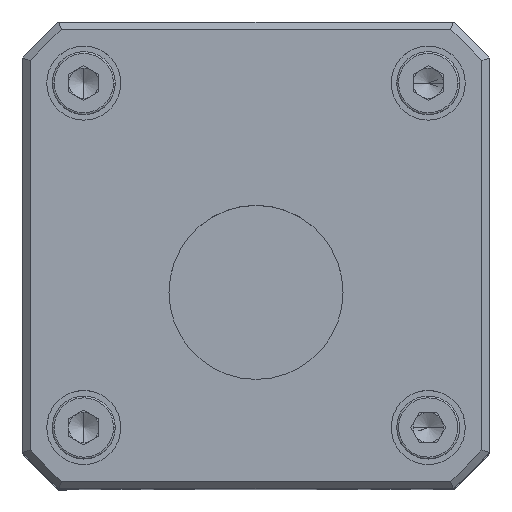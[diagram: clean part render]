
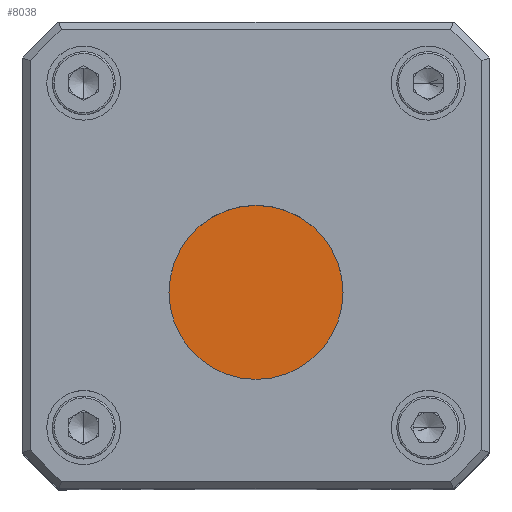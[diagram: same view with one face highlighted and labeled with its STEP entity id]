
A CAD part, top view. The second image highlights one B-rep face of the part: STEP entity #8038.
In plain terms, the highlighted planar face has unit normal (0, 0, 1).
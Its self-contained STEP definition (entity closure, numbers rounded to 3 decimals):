
#637 = AXIS2_PLACEMENT_3D ( 'NONE', #9122, #2692, #10342 ) ;
#1052 = EDGE_CURVE ( 'NONE', #2084, #8479, #10483, .T. ) ;
#2025 = EDGE_CURVE ( 'NONE', #8479, #2084, #6646, .T. ) ;
#2084 = VERTEX_POINT ( 'NONE', #7780 ) ;
#2121 = DIRECTION ( 'NONE',  ( 1., 0., 0. ) ) ;
#2692 = DIRECTION ( 'NONE',  ( 0., 0., 1. ) ) ;
#3225 = ORIENTED_EDGE ( 'NONE', *, *, #1052, .T. ) ;
#3670 = DIRECTION ( 'NONE',  ( 0., 1., 0. ) ) ;
#4398 = DIRECTION ( 'NONE',  ( 0., 0., 1. ) ) ;
#4500 = CARTESIAN_POINT ( 'NONE',  ( -11.75, -344., 40. ) ) ;
#4610 = EDGE_LOOP ( 'NONE', ( #3225, #12728 ) ) ;
#5771 = AXIS2_PLACEMENT_3D ( 'NONE', #6732, #4398, #2121 ) ;
#6646 = CIRCLE ( 'NONE', #5771, 11.75 ) ;
#6732 = CARTESIAN_POINT ( 'NONE',  ( 0., -344., 40. ) ) ;
#7072 = DIRECTION ( 'NONE',  ( 0., 0., -1. ) ) ;
#7780 = CARTESIAN_POINT ( 'NONE',  ( 11.75, -344., 40. ) ) ;
#7977 = PLANE ( 'NONE',  #12385 ) ;
#8025 = CARTESIAN_POINT ( 'NONE',  ( 11.61, -327.35, 40. ) ) ;
#8038 = ADVANCED_FACE ( 'NONE', ( #14244 ), #7977, .F. ) ;
#8479 = VERTEX_POINT ( 'NONE', #4500 ) ;
#9122 = CARTESIAN_POINT ( 'NONE',  ( 0., -344., 40. ) ) ;
#10342 = DIRECTION ( 'NONE',  ( 1., 0., 0. ) ) ;
#10483 = CIRCLE ( 'NONE', #637, 11.75 ) ;
#12385 = AXIS2_PLACEMENT_3D ( 'NONE', #8025, #7072, #3670 ) ;
#12728 = ORIENTED_EDGE ( 'NONE', *, *, #2025, .T. ) ;
#14244 = FACE_OUTER_BOUND ( 'NONE', #4610, .T. ) ;
